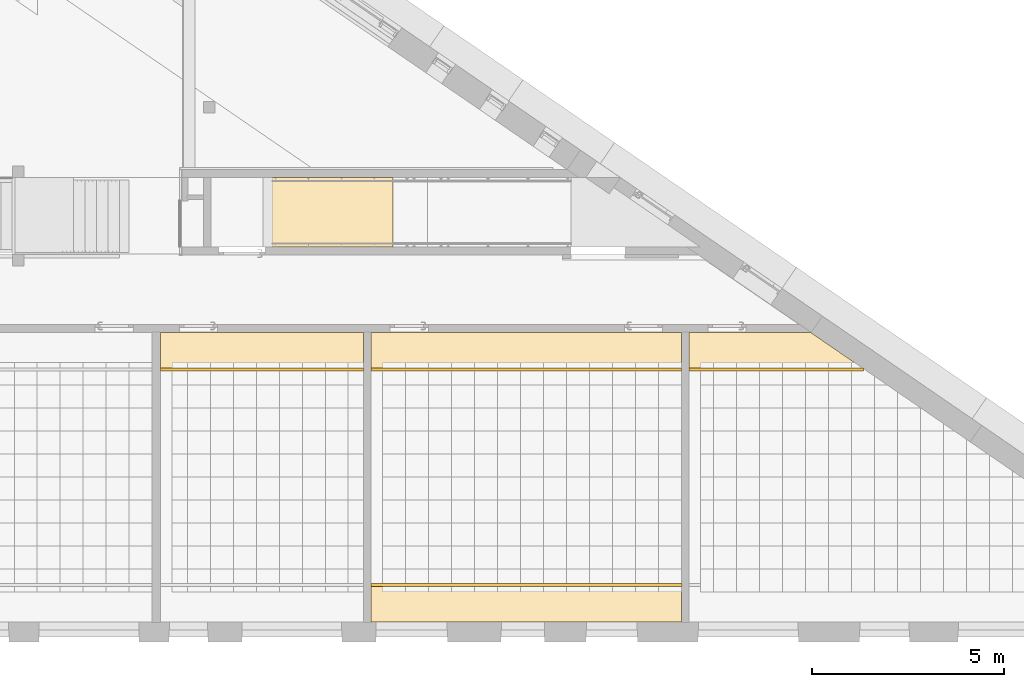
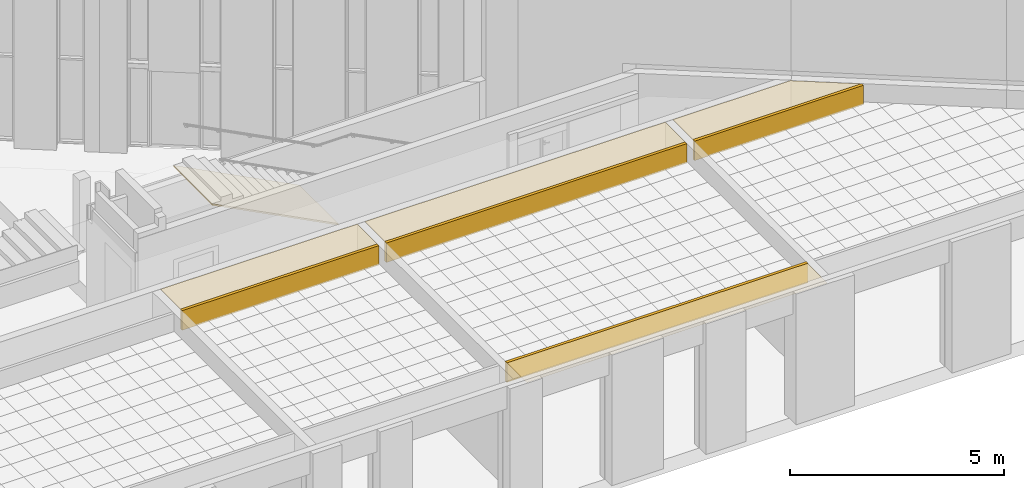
# One storey, part 60 of 79: 9 coverings, 4 openings.
"""IFC2X3 building model written with IfcOpenShell, lengths in millimetres."""

from ifc_helpers import new_model, entity, si_unit, converted_unit, derived_unit, money_unit, direction, frame, origin_with_axes, place, context, subcontext, project, spatial, faceted_brep, material, material_list, type_object, element, save


model = new_model("IFC2X3")

# Units and contexts
model_context = context("Model", 3, precision=0.01, world=origin_with_axes(), true_north=direction((0.0, 1.0)))
body_context = subcontext(model_context, "Body", "Model", "MODEL_VIEW")
ifc_project = project(units=[si_unit("LENGTHUNIT", "METRE", prefix="MILLI"), si_unit("AREAUNIT", "SQUARE_METRE"), si_unit("VOLUMEUNIT", "CUBIC_METRE"), converted_unit("PLANEANGLEUNIT", "DEGREE", entity("IfcPlaneAngleMeasure", 0.0174532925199), si_unit("PLANEANGLEUNIT", "RADIAN"), dimensions=[0, 0, 0, 0, 0, 0, 0]), si_unit("SOLIDANGLEUNIT", "STERADIAN"), money_unit("EUR"), converted_unit("TIMEUNIT", "Year", entity("IfcTimeMeasure", 31556926.0), si_unit("TIMEUNIT", "SECOND"), dimensions=[0, 0, 1, 0, 0, 0, 0]), si_unit("MASSUNIT", "GRAM", prefix="KILO"), si_unit("THERMODYNAMICTEMPERATUREUNIT", "DEGREE_CELSIUS"), si_unit("LUMINOUSINTENSITYUNIT", "LUMEN"), si_unit("ENERGYUNIT", "JOULE", prefix="MEGA"), derived_unit("THERMALCONDUCTANCEUNIT", [(si_unit("POWERUNIT", "WATT"), 1), (si_unit("LENGTHUNIT", "METRE"), -1), (si_unit("THERMODYNAMICTEMPERATUREUNIT", "KELVIN"), -1)]), derived_unit("SPECIFICHEATCAPACITYUNIT", [(si_unit("ENERGYUNIT", "JOULE"), 1), (si_unit("MASSUNIT", "GRAM", prefix="KILO"), -1), (si_unit("THERMODYNAMICTEMPERATUREUNIT", "KELVIN"), -1)]), derived_unit("MASSDENSITYUNIT", [(si_unit("MASSUNIT", "GRAM", prefix="KILO"), 1), (si_unit("VOLUMEUNIT", "CUBIC_METRE"), -1)])], contexts=[model_context])

# Site, building, storey
site_placement = place(None, origin_with_axes())
site = spatial("IfcSite", under=ifc_project, at=site_placement, Name="L.Koidula tn 11b", CompositionType="ELEMENT")
building_placement = place(site_placement, origin_with_axes())
building = spatial("IfcBuilding", under=site, at=building_placement, Name="Rakvere Riigigümnaasium", CompositionType="ELEMENT")
storey_placement = place(building_placement, frame((0.0, 0.0, 3720.0), z_axis=(0.0, 0.0, 1.0), x_axis=(1.0, 0.0, 0.0)))
storey = spatial("IfcBuildingStorey", under=building, at=storey_placement, Name="2.korrus +3,72", CompositionType="ELEMENT", Elevation=3720.0)

# Coverings
ifc_material_1 = material(Name="mineraalvill+karkass")
ifc_material_2 = material(Name="SKR-02_Kipsplaat")
ifc_material_list = material_list([ifc_material_1, ifc_material_2])
covering_type_1 = type_object("IfcCoveringType", Name="SA-LV-kips 79", PredefinedType="CEILING")
covering_1_placement = place(storey_placement, frame((80169.715089, 12140.4555989, 2762.5), z_axis=(0.0, 0.0, 1.0), x_axis=(-1.0, 0.0, 0.0)))
element("IfcCovering", 1, at=covering_1_placement, inside=storey, type_object=covering_type_1, material=ifc_material_list, Name="L-04 vert", PredefinedType="CEILING", context=body_context, shape_type="Brep", body=[
    faceted_brep([(5300.0, 12.5, 557.500000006), (5300.0, 78.5, 557.500000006), (0.0, 78.5, 557.500000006), (0.0, 12.5, 557.500000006), (5300.0, 12.5, 0.0), (5300.0, 78.5, 0.0), (0.0, 78.5, 0.0), (0.0, 12.5, 0.0)], [[[0, 1, 2, 3]], [[0, 4, 5, 1]], [[1, 5, 6, 2]], [[3, 2, 6, 7]], [[4, 0, 3, 7]], [[5, 4, 7, 6]]]),
    faceted_brep([(5300.0, 0.0, 557.500000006), (5300.0, 12.5, 557.500000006), (0.0, 12.5, 557.500000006), (0.0, 0.0, 557.500000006), (5300.0, 0.0, 0.0), (5300.0, 12.5, 0.0), (0.0, 12.5, 0.0), (0.0, 0.0, 0.0)], [[[0, 1, 2, 3]], [[0, 4, 5, 1]], [[1, 5, 6, 2]], [[3, 2, 6, 7]], [[4, 0, 3, 7]], [[5, 4, 7, 6]]]),
])
covering_2_placement = place(storey_placement, frame((93220.5780909, 12135.4543717, 2762.5), z_axis=(0.0, 0.0, 1.0), x_axis=(-1.0, 0.0, 0.0)))
element("IfcCovering", 2, at=covering_2_placement, inside=storey, type_object=covering_type_1, material=ifc_material_list, Name="L-04 vert", PredefinedType="CEILING", context=body_context, shape_type="Brep", body=[
    faceted_brep([(4551.46294133, 12.5, 557.500000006), (4551.46294133, 78.5, 557.500000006), (0.0, 78.5, 557.500000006), (0.0, 12.5, 557.500000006), (4551.46294133, 12.5, 0.0), (4551.46294133, 78.5, 0.0), (0.0, 78.5, 0.0), (0.0, 12.5, 0.0)], [[[0, 1, 2, 3]], [[0, 4, 5, 1]], [[1, 5, 6, 2]], [[3, 2, 6, 7]], [[4, 0, 3, 7]], [[5, 4, 7, 6]]]),
    faceted_brep([(4551.46294133, 0.0, 557.500000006), (4551.46294133, 12.5, 557.500000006), (0.0, 12.5, 557.500000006), (0.0, 0.0, 557.500000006), (4551.46294133, 0.0, 0.0), (4551.46294133, 12.5, 0.0), (0.0, 12.5, 0.0), (0.0, 0.0, 0.0)], [[[0, 1, 2, 3]], [[0, 4, 5, 1]], [[1, 5, 6, 2]], [[3, 2, 6, 7]], [[4, 0, 3, 7]], [[5, 4, 7, 6]]]),
])
covering_3_placement = place(storey_placement, frame((80369.7443135, 6435.45437174, 2762.5), z_axis=(0.0, 0.0, 1.0), x_axis=(1.0, 0.0, 0.0)))
element("IfcCovering", 3, at=covering_3_placement, inside=storey, type_object=covering_type_1, material=ifc_material_list, Name="L-04 vert", PredefinedType="CEILING", context=body_context, shape_type="Brep", body=[
    faceted_brep([(8110.25568837, 12.5, 557.500000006), (8110.25568837, 78.5, 557.500000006), (0.0, 78.5, 557.500000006), (0.0, 12.5, 557.500000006), (8110.25568837, 12.5, 0.0), (8110.25568837, 78.5, 0.0), (0.0, 78.5, 0.0), (0.0, 12.5, 0.0)], [[[0, 1, 2, 3]], [[0, 4, 5, 1]], [[1, 5, 6, 2]], [[3, 2, 6, 7]], [[4, 0, 3, 7]], [[5, 4, 7, 6]]]),
    faceted_brep([(8110.25568837, 0.0, 557.500000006), (8110.25568837, 12.5, 557.500000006), (0.0, 12.5, 557.500000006), (0.0, 0.0, 557.500000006), (8110.25568837, 0.0, 0.0), (8110.25568837, 12.5, 0.0), (0.0, 12.5, 0.0), (0.0, 0.0, 0.0)], [[[0, 1, 2, 3]], [[0, 4, 5, 1]], [[1, 5, 6, 2]], [[3, 2, 6, 7]], [[4, 0, 3, 7]], [[5, 4, 7, 6]]]),
])
covering_4_placement = place(storey_placement, frame((88469.7840279, 12140.4549644, 2762.5), z_axis=(0.0, 0.0, 1.0), x_axis=(-1.0, 0.0, 0.0)))
element("IfcCovering", 4, at=covering_4_placement, inside=storey, type_object=covering_type_1, material=ifc_material_list, Name="L-04 vert", PredefinedType="CEILING", context=body_context, shape_type="Brep", body=[
    faceted_brep([(8100.03971444, 12.5, 557.500000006), (8100.03971444, 78.5, 557.500000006), (0.0, 78.5, 557.500000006), (0.0, 12.5, 557.500000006), (8100.03971444, 12.5, 0.0), (8100.03971444, 78.5, 0.0), (0.0, 78.5, 0.0), (0.0, 12.5, 0.0)], [[[0, 1, 2, 3]], [[0, 4, 5, 1]], [[1, 5, 6, 2]], [[3, 2, 6, 7]], [[4, 0, 3, 7]], [[5, 4, 7, 6]]]),
    faceted_brep([(8100.03971444, 0.0, 557.500000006), (8100.03971444, 12.5, 557.500000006), (0.0, 12.5, 557.500000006), (0.0, 0.0, 557.500000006), (8100.03971444, 0.0, 0.0), (8100.03971444, 12.5, 0.0), (0.0, 12.5, 0.0), (0.0, 0.0, 0.0)], [[[0, 1, 2, 3]], [[0, 4, 5, 1]], [[1, 5, 6, 2]], [[3, 2, 6, 7]], [[4, 0, 3, 7]], [[5, 4, 7, 6]]]),
])

# Covering, openings
ifc_material_3 = material(Name="Krohv akustiline")
covering_type_2 = type_object("IfcCoveringType", Name="Krohv akustiline 42", PredefinedType="CEILING")
covering_5_placement = place(storey_placement, frame((77547.8374145, 16909.010911, 3417.72545129), z_axis=(0.0, 0.0, 1.0), x_axis=(2.35970032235e-08, -1.0, 0.0)))
covering_5 = element("IfcCovering", 5, at=covering_5_placement, inside=storey, type_object=covering_type_2, material=ifc_material_3, Name="L-06", PredefinedType="CEILING", context=body_context, shape_type="Brep", body=[
    faceted_brep([(-201.360120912, -0.000221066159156, 47.274737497), (1608.65972085, 0.000221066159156, 47.2745090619), (1608.65980101, 3396.77429428, -1707.72544035), (-201.360040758, 3396.77433699, -1707.72546241), (-201.360120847, -0.00022141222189, 0.000113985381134), (1608.6597215, 0.000221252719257, -0.000114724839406), (1608.6598016, 3396.77429394, -1755.00006386), (-201.360040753, 3396.77433696, -1755.00008609)], [[[0, 1, 2, 3]], [[1, 0, 4, 5]], [[2, 1, 5, 6]], [[3, 2, 6, 7]], [[0, 3, 7, 4]], [[5, 4, 7, 6]]]),
])
opening_1_placement = place(covering_5_placement, frame((866.040969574, 23603.0848335, 3083.38129433), z_axis=(0.0, 0.0, 1.0), x_axis=(1.0, 0.0, 0.0)))
element("IfcOpeningElement", 6, at=opening_1_placement, cuts=covering_5, Name="Ava ripplaes", context=body_context, shape_type="Brep", body=[
    faceted_brep([(600.172309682, -1193.2350934, -3291.29677347), (-599.827677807, -1193.40837368, -3291.29677347), (-599.826462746, -1201.82291488, -3371.35578605), (600.173524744, -1201.6496346, -3371.35578605), (599.999978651, 0.191168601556, -3416.7309294), (-600.000008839, 0.0178883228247, -3416.7309294), (-599.998793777, -8.39665288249, -3496.78994197), (600.001193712, -8.22337260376, -3496.78994197)], [[[0, 1, 2, 3]], [[0, 4, 5, 1]], [[1, 5, 6, 2]], [[3, 2, 6, 7]], [[4, 0, 3, 7]], [[5, 4, 7, 6]]]),
])
opening_2_placement = place(covering_5_placement, frame((866.213159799, 16442.5261855, 3835.98632987), z_axis=(0.0, 0.0, 1.0), x_axis=(1.0, 0.0, 0.0)))
element("IfcOpeningElement", 7, at=opening_2_placement, cuts=covering_5, Name="Ava ripplaes", context=body_context, shape_type="Brep", body=[
    faceted_brep([(600.172309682, -1193.2350934, -3291.29677347), (-599.827677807, -1193.40837368, -3291.29677347), (-599.826462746, -1201.82291488, -3371.35578605), (600.173524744, -1201.6496346, -3371.35578605), (599.999978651, 0.191168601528, -3416.7309294), (-600.000008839, 0.0178883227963, -3416.7309294), (-599.998793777, -8.39665288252, -3496.78994197), (600.001193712, -8.22337260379, -3496.78994197)], [[[0, 1, 2, 3]], [[0, 4, 5, 1]], [[1, 5, 6, 2]], [[3, 2, 6, 7]], [[4, 0, 3, 7]], [[5, 4, 7, 6]]]),
])
opening_3_placement = place(covering_5_placement, frame((866.212906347, 5701.68789065, 4964.89391319), z_axis=(0.0, 0.0, 1.0), x_axis=(1.0, 0.0, 0.0)))
element("IfcOpeningElement", 8, at=opening_3_placement, cuts=covering_5, Name="Ava ripplaes", context=body_context, shape_type="Brep", body=[
    faceted_brep([(600.172309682, -1193.2350934, -3291.29677347), (-599.827677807, -1193.40837368, -3291.29677347), (-599.826462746, -1201.82291488, -3371.35578605), (600.173524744, -1201.6496346, -3371.35578605), (599.999978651, 0.191168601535, -3416.7309294), (-600.000008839, 0.0178883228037, -3416.7309294), (-599.998793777, -8.39665288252, -3496.78994197), (600.001193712, -8.22337260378, -3496.78994197)], [[[0, 1, 2, 3]], [[0, 4, 5, 1]], [[1, 5, 6, 2]], [[3, 2, 6, 7]], [[4, 0, 3, 7]], [[5, 4, 7, 6]]]),
])
opening_4_placement = place(covering_5_placement, frame((866.212990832, 9281.96710705, 4588.59140803), z_axis=(0.0, 0.0, 1.0), x_axis=(1.0, 0.0, 0.0)))
element("IfcOpeningElement", 9, at=opening_4_placement, cuts=covering_5, Name="Ava ripplaes", context=body_context, shape_type="Brep", body=[
    faceted_brep([(600.172309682, -1193.2350934, -3291.29677347), (-599.827677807, -1193.40837368, -3291.29677347), (-599.826462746, -1201.82291488, -3371.35578605), (600.173524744, -1201.6496346, -3371.35578605), (599.999978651, 0.191168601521, -3416.7309294), (-600.000008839, 0.0178883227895, -3416.7309294), (-599.998793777, -8.39665288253, -3496.78994197), (600.001193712, -8.2233726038, -3496.78994197)], [[[0, 1, 2, 3]], [[0, 4, 5, 1]], [[1, 5, 6, 2]], [[3, 2, 6, 7]], [[4, 0, 3, 7]], [[5, 4, 7, 6]]]),
])

# Coverings
ifc_material_4 = material(Name="Salto-siseviimistlus-ripplagi")
covering_type_3 = type_object("IfcCoveringType", Name="Salto-siseviimistlus-ripplagi 1", PredefinedType="CLADDING")
covering_6_placement = place(storey_placement, frame((80169.715089, 13070.4544092, 3320.00000001), z_axis=(0.0, 0.0, 1.0), x_axis=(1.0, 0.0, 0.0)))
element("IfcCovering", 10, at=covering_6_placement, inside=storey, type_object=covering_type_3, material=ifc_material_4, Name="L-09", PredefinedType="CLADDING", context=body_context, shape_type="Brep", body=[
    faceted_brep([(0.0, 0.0, 0.0), (0.0, 0.0, -1.0), (-5299.99866322, 0.0, -1.0), (-5299.99866322, 0.0, 0.0), (0.0, -929.998810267, 0.0), (0.0, -929.998810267, -1.0), (-5299.99866322, -929.998810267, -1.0), (-5299.99866322, -929.998810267, 0.0)], [[[0, 1, 2, 3]], [[4, 5, 1, 0]], [[2, 1, 5, 6]], [[3, 2, 6, 7]], [[0, 3, 7, 4]], [[7, 6, 5, 4]]]),
])
covering_7_placement = place(storey_placement, frame((80369.7443135, 13070.4544011, 3320.00000001), z_axis=(0.0, 0.0, 1.0), x_axis=(1.0, 0.0, 0.0)))
element("IfcCovering", 11, at=covering_7_placement, inside=storey, type_object=covering_type_3, material=ifc_material_4, Name="L-09", PredefinedType="CLADDING", context=body_context, shape_type="Brep", body=[
    faceted_brep([(0.0, 0.0, 0.0), (0.0, 0.0, -1.0), (0.0, -929.999436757, -1.0), (0.0, -929.999436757, 0.0), (8100.03971444, 0.0, 0.0), (8100.03971444, 0.0, -1.0), (8100.03971444, -929.999436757, -1.0), (8100.03971444, -929.999436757, 0.0)], [[[0, 1, 2, 3]], [[4, 5, 1, 0]], [[2, 1, 5, 6]], [[3, 2, 6, 7]], [[4, 0, 3, 7]], [[7, 6, 5, 4]]]),
])
covering_8_placement = place(storey_placement, frame((80669.4443828, 6435.45436996, 3320.00000001), z_axis=(0.0, 0.0, 1.0), x_axis=(1.0, 0.0, 0.0)))
element("IfcCovering", 12, at=covering_8_placement, inside=storey, type_object=covering_type_3, material=ifc_material_4, Name="L-09", PredefinedType="CLADDING", context=body_context, shape_type="Brep", body=[
    faceted_brep([(-299.700069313, 0.0, 0.0), (-299.700069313, 0.0, -1.0), (-299.700069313, -924.998831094, -1.0), (-299.700069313, -924.998831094, 0.0), (7800.33964513, 0.0, 0.0), (7800.33964513, 0.0, -1.0), (7800.33964513, -924.998831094, -1.0), (7800.33964513, -924.998831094, 0.0)], [[[0, 1, 2, 3]], [[4, 5, 1, 0]], [[1, 5, 6, 2]], [[3, 2, 6, 7]], [[4, 0, 3, 7]], [[7, 6, 5, 4]]]),
])
covering_9_placement = place(storey_placement, frame((91857.3600438, 13070.4543331, 3320.00000001), z_axis=(0.0, 0.0, 1.0), x_axis=(1.0, 0.0, 0.0)))
element("IfcCovering", 13, at=covering_9_placement, inside=storey, type_object=covering_type_3, material=ifc_material_4, Name="L-09", PredefinedType="CLADDING", context=body_context, shape_type="Brep", body=[
    faceted_brep([(0.0, 0.0, 0.0), (0.0, 0.0, -1.0), (-3187.36004192, 0.0, -1.0), (-3187.36004192, 0.0, 0.0), (-5.65620350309, -8.24662187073, 0.0), (-5.65620350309, -8.24662187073, -1.0), (1345.53832214, -934.999967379, -1.0), (-3187.36004192, -934.999967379, -1.0), (-3187.36004192, -934.999967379, 0.0), (1345.53832214, -934.999967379, 0.0)], [[[0, 1, 2, 3]], [[4, 5, 1, 0]], [[2, 1, 5, 6, 7]], [[3, 2, 7, 8]], [[4, 0, 3, 8, 9]], [[9, 6, 5, 4]], [[8, 7, 6, 9]]]),
])

save(model, "model.ifc")
